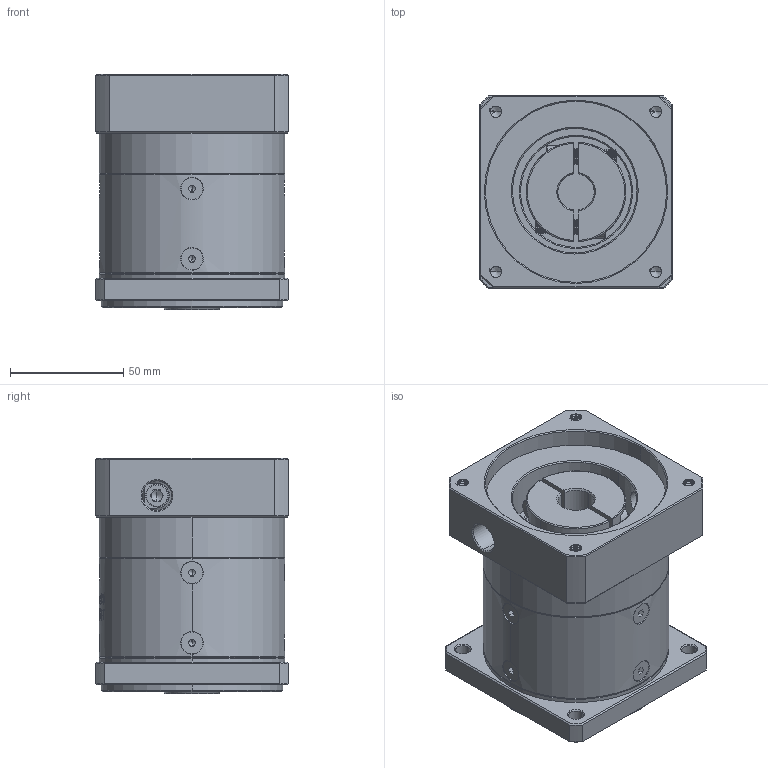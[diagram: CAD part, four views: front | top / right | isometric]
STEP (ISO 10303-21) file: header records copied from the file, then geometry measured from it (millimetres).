
FILE_DESCRIPTION (( 'STEP AP214' ), '1' );
FILE_NAME ('ZF080-K15-L1-P2-16-80-100-M6.step', '2023-08-19T05:34:45', ( '' ), ( '' ), 'SwSTEP 2.0', 'SolidWorks 2016', '' );
FILE_SCHEMA (( 'AUTOMOTIVE_DESIGN' ));
Length unit declared in the file: millimetre
Products named in the file (1): ZF080-K15-L1-P2-16-80-100-M6
Bounding box: 85 x 85 x 104 mm (x, y, z)
Volume: 518500.6 mm3; surface area: 87813.7 mm2
Topology: 13 solids, 13 shells, 2207 faces, 5786 edges, 3677 vertices
Faces by surface type: plane 1066, bspline 390, cylinder 384, cone 332, torus 35
Entity records: 117233 total; most frequent: CARTESIAN_POINT 43626, ORIENTED_EDGE 11516, DIRECTION 8517, EDGE_CURVE 5758, VERTEX_POINT 3677, VECTOR 3071, LINE 3071, AXIS2_PLACEMENT_3D 2723
